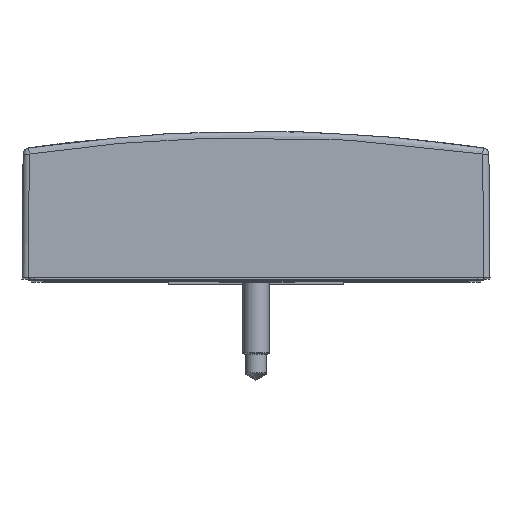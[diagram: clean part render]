
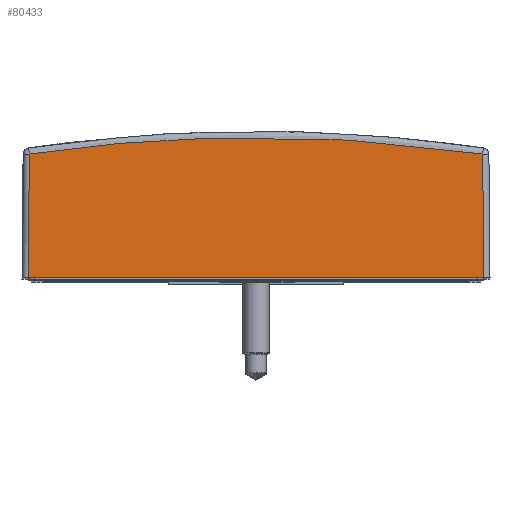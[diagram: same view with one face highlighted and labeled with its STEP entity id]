
A CAD part, top view. The second image highlights one B-rep face of the part: STEP entity #80433.
In plain terms, the highlighted planar face has unit normal (0, 0.009, 1).
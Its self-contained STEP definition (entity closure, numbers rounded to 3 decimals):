
#798 = ORIENTED_EDGE ( 'NONE', *, *, #84731, .T. ) ;
#1598 = LINE ( 'NONE', #40803, #77865 ) ;
#4552 = CARTESIAN_POINT ( 'NONE',  ( 36.5, 0.7, 60.25 ) ) ;
#10434 = CARTESIAN_POINT ( 'NONE',  ( -36.5, 0.7, 60.25 ) ) ;
#12279 = DIRECTION ( 'NONE',  ( 0., 0.009, 1. ) ) ;
#14523 = ORIENTED_EDGE ( 'NONE', *, *, #43329, .T. ) ;
#15100 = DIRECTION ( 'NONE',  ( -0.009, 1., -0.009 ) ) ;
#15525 = VECTOR ( 'NONE', #68549, 1000. ) ;
#18752 = VERTEX_POINT ( 'NONE', #10434 ) ;
#19050 = DIRECTION ( 'NONE',  ( 1., 0., 0. ) ) ;
#26793 = PLANE ( 'NONE',  #43231 ) ;
#28124 = EDGE_LOOP ( 'NONE', ( #46654, #14523, #798, #94645 ) ) ;
#35218 = LINE ( 'NONE', #61180, #15525 ) ;
#38445 = VECTOR ( 'NONE', #15100, 1000. ) ;
#40803 = CARTESIAN_POINT ( 'NONE',  ( -37.5, 0.7, 60.25 ) ) ;
#43231 = AXIS2_PLACEMENT_3D ( 'NONE', #56664, #12279, #64035 ) ;
#43329 = EDGE_CURVE ( 'NONE', #50137, #18752, #35218, .T. ) ;
#46654 = ORIENTED_EDGE ( 'NONE', *, *, #94855, .T. ) ;
#49202 = VERTEX_POINT ( 'NONE', #76993 ) ;
#50137 = VERTEX_POINT ( 'NONE', #68665 ) ;
#50282 = CARTESIAN_POINT ( 'NONE',  ( -36.327, 20.545, 60.077 ) ) ;
#51009 = VERTEX_POINT ( 'NONE', #4552 ) ;
#52722 = EDGE_CURVE ( 'NONE', #51009, #49202, #60434, .T. ) ;
#56664 = CARTESIAN_POINT ( 'NONE',  ( -37.5, 0.7, 60.25 ) ) ;
#60084 = CARTESIAN_POINT ( 'NONE',  ( 36.494, 1.346, 60.244 ) ) ;
#60434 = LINE ( 'NONE', #60084, #38445 ) ;
#61180 = CARTESIAN_POINT ( 'NONE',  ( -36.5, 0.691, 60.25 ) ) ;
#64035 = DIRECTION ( 'NONE',  ( 0., -1., 0.009 ) ) ;
#64751 = CARTESIAN_POINT ( 'NONE',  ( 36.327, 20.545, 60.077 ) ) ;
#68549 = DIRECTION ( 'NONE',  ( -0.009, -1., 0.009 ) ) ;
#68665 = CARTESIAN_POINT ( 'NONE',  ( -36.327, 20.545, 60.077 ) ) ;
#72160 = CARTESIAN_POINT ( 'NONE',  ( 12.196, 24.103, 60.046 ) ) ;
#73202 = FACE_OUTER_BOUND ( 'NONE', #28124, .T. ) ;
#76993 = CARTESIAN_POINT ( 'NONE',  ( 36.327, 20.545, 60.077 ) ) ;
#77865 = VECTOR ( 'NONE', #19050, 1000. ) ;
#80433 = ADVANCED_FACE ( 'NONE', ( #73202 ), #26793, .T. ) ;
#84731 = EDGE_CURVE ( 'NONE', #18752, #51009, #1598, .T. ) ;
#85433 =( BOUNDED_CURVE ( )  B_SPLINE_CURVE ( 3, ( #64751, #72160, #94381, #50282 ),
 .UNSPECIFIED., .F., .T. ) 
 B_SPLINE_CURVE_WITH_KNOTS ( ( 4, 4 ),
 ( 2.995, 3.288 ),
 .UNSPECIFIED. ) 
 CURVE ( )  GEOMETRIC_REPRESENTATION_ITEM ( )  RATIONAL_B_SPLINE_CURVE ( ( 1., 0.993, 0.993, 1. ) ) 
 REPRESENTATION_ITEM ( '' )  );
#94381 = CARTESIAN_POINT ( 'NONE',  ( -12.196, 24.103, 60.046 ) ) ;
#94645 = ORIENTED_EDGE ( 'NONE', *, *, #52722, .T. ) ;
#94855 = EDGE_CURVE ( 'NONE', #49202, #50137, #85433, .T. ) ;
